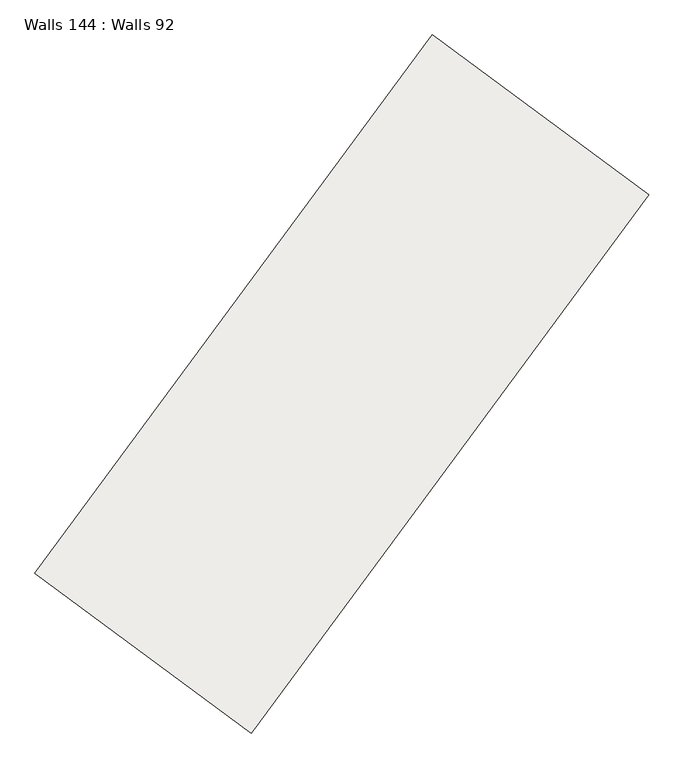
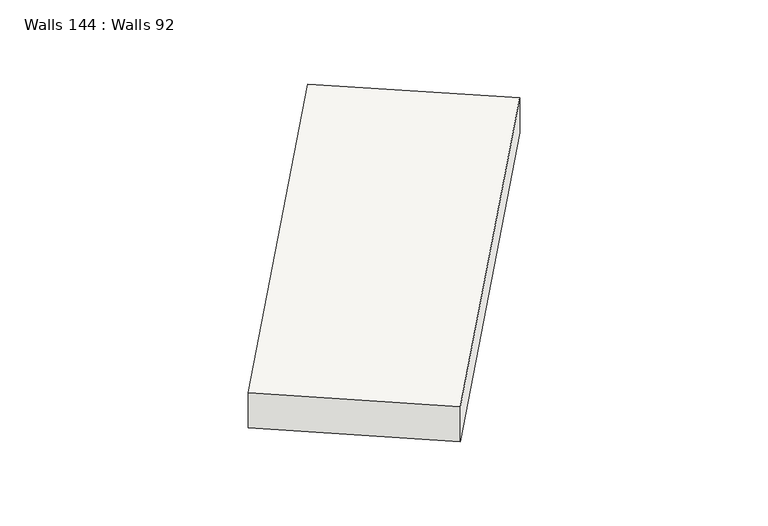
"""IFC4 building model written with IfcOpenShell, lengths in millimetres: slab geometry, Walls 144 : Walls 92."""

from ifc_helpers import new_model, si_unit, frame, origin, place, context, project, spatial, polyline, outline, extrude, source, transform, mapped, element, save


def walls_144_walls_92_524be7db(model_context):
    return source(origin(), model_context, "Body", "SweptSolid", [
        extrude(outline(polyline([(-350.0, 0.0), (350.0, 0.0), (220.0, -8700.0000001), (-480.0, -8700.0000001), (-350.0, 0.0)])), frame((81254.7283204, -68234.3225409, 639860.0), z_axis=(-0.8047049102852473, 0.5936750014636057, 0.0), x_axis=(0.0, 0.0, 1.0)), (0.0, 0.0, 1.0), 3499.9805598),
    ])


if __name__ == "__main__":
    model = new_model("IFC4")
    model_context = context("Model", 3, world=origin())
    ifc_project = project(units=[si_unit("LENGTHUNIT", "METRE", prefix="MILLI")], contexts=[model_context])
    site = spatial("IfcSite", under=ifc_project)
    building = spatial("IfcBuilding", under=site)
    placement = place(None, origin())
    walls_144_walls_92_shape = walls_144_walls_92_524be7db(model_context)
    element("IfcSlab", 1, ObjectType="Walls 144 : Walls 92", at=placement, inside=building, context=model_context, shape_type="MappedRepresentation", body=[
        mapped(walls_144_walls_92_shape, transform((0.0, 0.0, 0.0), x_axis=(1.0, 0.0, 0.0), y_axis=(0.0, 1.0, 0.0), z_axis=(0.0, 0.0, 1.0))),
    ])
    save(model, "model.ifc")
